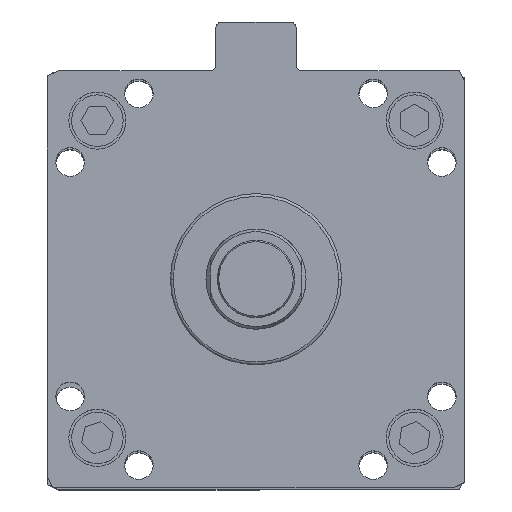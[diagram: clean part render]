
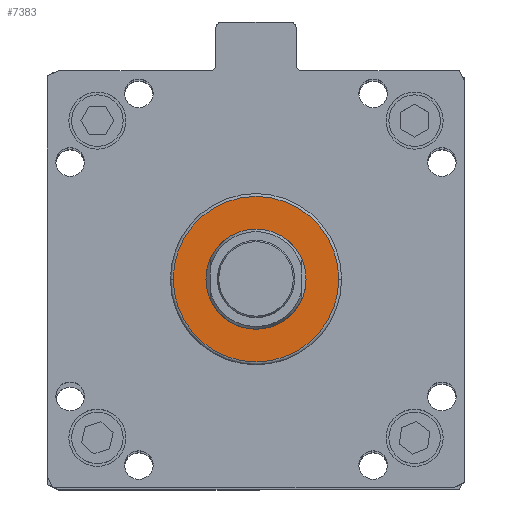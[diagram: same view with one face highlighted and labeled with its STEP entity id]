
A CAD part, top view. The second image highlights one B-rep face of the part: STEP entity #7383.
In plain terms, the highlighted planar face has unit normal (0, 0, 1).
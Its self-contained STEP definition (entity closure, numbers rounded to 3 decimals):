
#208 = DIRECTION ( 'NONE',  ( 1., 0., 0. ) ) ;
#277 = CARTESIAN_POINT ( 'NONE',  ( 0., 0., 30. ) ) ;
#539 = CIRCLE ( 'NONE', #1067, 17.5 ) ;
#546 = AXIS2_PLACEMENT_3D ( 'NONE', #4090, #8648, #208 ) ;
#577 = ORIENTED_EDGE ( 'NONE', *, *, #2247, .F. ) ;
#772 = CIRCLE ( 'NONE', #5406, 17.5 ) ;
#876 = ORIENTED_EDGE ( 'NONE', *, *, #7431, .F. ) ;
#1027 = FACE_BOUND ( 'NONE', #9132, .T. ) ;
#1041 = DIRECTION ( 'NONE',  ( 1., 0., 0. ) ) ;
#1067 = AXIS2_PLACEMENT_3D ( 'NONE', #277, #5709, #1041 ) ;
#1084 = EDGE_CURVE ( 'NONE', #1913, #6660, #5073, .T. ) ;
#1432 = CARTESIAN_POINT ( 'NONE',  ( 17.5, 0., 30. ) ) ;
#1445 = EDGE_CURVE ( 'NONE', #6660, #1913, #1622, .T. ) ;
#1622 = CIRCLE ( 'NONE', #6011, 28.95 ) ;
#1913 = VERTEX_POINT ( 'NONE', #6284 ) ;
#2247 = EDGE_CURVE ( 'NONE', #4542, #9595, #772, .T. ) ;
#3952 = DIRECTION ( 'NONE',  ( 0., 0., 1. ) ) ;
#3957 = CARTESIAN_POINT ( 'NONE',  ( 0., 0., 30. ) ) ;
#4090 = CARTESIAN_POINT ( 'NONE',  ( 0., 0., 30. ) ) ;
#4482 = ORIENTED_EDGE ( 'NONE', *, *, #1445, .T. ) ;
#4542 = VERTEX_POINT ( 'NONE', #7279 ) ;
#4566 = DIRECTION ( 'NONE',  ( 0., 0., 1. ) ) ;
#4732 = DIRECTION ( 'NONE',  ( 1., 0., 0. ) ) ;
#4774 = ORIENTED_EDGE ( 'NONE', *, *, #1084, .T. ) ;
#4869 = EDGE_LOOP ( 'NONE', ( #4482, #4774 ) ) ;
#4872 = PLANE ( 'NONE',  #546 ) ;
#5073 = CIRCLE ( 'NONE', #7939, 28.95 ) ;
#5173 = FACE_OUTER_BOUND ( 'NONE', #4869, .T. ) ;
#5406 = AXIS2_PLACEMENT_3D ( 'NONE', #3957, #9332, #4732 ) ;
#5709 = DIRECTION ( 'NONE',  ( 0., 0., 1. ) ) ;
#6011 = AXIS2_PLACEMENT_3D ( 'NONE', #8549, #3952, #9329 ) ;
#6284 = CARTESIAN_POINT ( 'NONE',  ( -28.95, 0., 30. ) ) ;
#6660 = VERTEX_POINT ( 'NONE', #9696 ) ;
#7279 = CARTESIAN_POINT ( 'NONE',  ( -17.5, 0., 30. ) ) ;
#7383 = ADVANCED_FACE ( 'NONE', ( #5173, #1027 ), #4872, .T. ) ;
#7431 = EDGE_CURVE ( 'NONE', #9595, #4542, #539, .T. ) ;
#7939 = AXIS2_PLACEMENT_3D ( 'NONE', #9158, #4566, #9935 ) ;
#8549 = CARTESIAN_POINT ( 'NONE',  ( 0., 0., 30. ) ) ;
#8648 = DIRECTION ( 'NONE',  ( 0., 0., 1. ) ) ;
#9132 = EDGE_LOOP ( 'NONE', ( #577, #876 ) ) ;
#9158 = CARTESIAN_POINT ( 'NONE',  ( 0., 0., 30. ) ) ;
#9329 = DIRECTION ( 'NONE',  ( 1., 0., 0. ) ) ;
#9332 = DIRECTION ( 'NONE',  ( 0., 0., 1. ) ) ;
#9595 = VERTEX_POINT ( 'NONE', #1432 ) ;
#9696 = CARTESIAN_POINT ( 'NONE',  ( 28.95, 0., 30. ) ) ;
#9935 = DIRECTION ( 'NONE',  ( 1., 0., 0. ) ) ;
